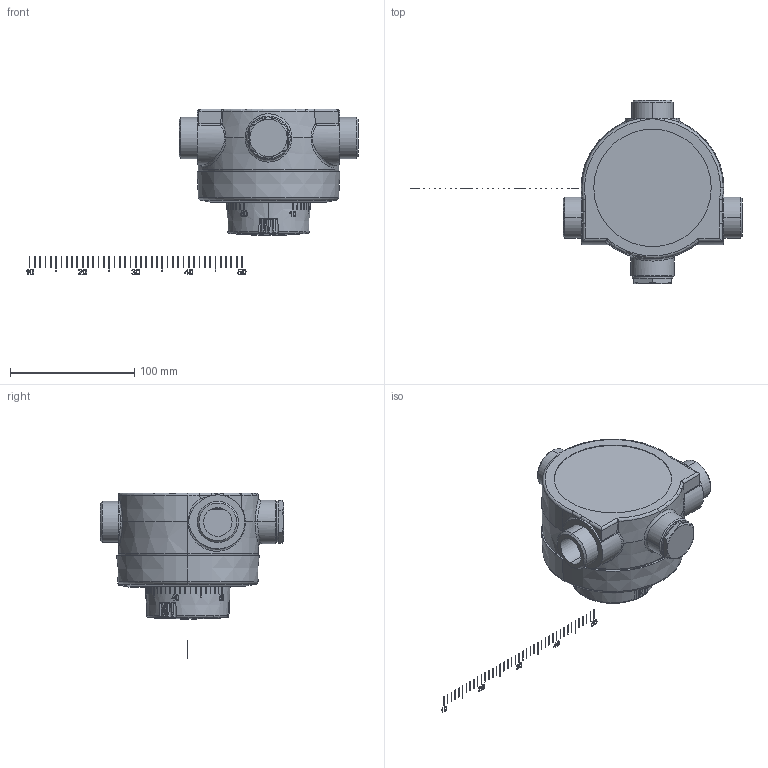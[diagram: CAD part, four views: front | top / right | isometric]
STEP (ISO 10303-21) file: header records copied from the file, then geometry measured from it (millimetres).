
FILE_DESCRIPTION (( 'STEP AP214' ), '1' );
FILE_NAME ('22TX93E.STEP', '2017-12-19T08:50:17', ( '' ), ( '' ), 'SwSTEP 2.0', 'SolidWorks 2017', '' );
FILE_SCHEMA (( 'AUTOMOTIVE_DESIGN' ));
Length unit declared in the file: millimetre
Products named in the file (16): 22TX93E; 22100282; 22100284; 22108024GR; 22108019; 22108014GR; 22108350; 22100037; 22080300_Enveloppe; 22018970; 22108612; 22014885; 22012565; 22108337; 22010427_22010427; 22108311_22108311PE
Assembly tree (20 placements, depth 3):
  22TX93E
    22108311_22108311PE
    22080300_Enveloppe
      22010427_22010427
      22108337
      22012565  x2
      22014885  x2
      22108612
      22018970  x2
    22100037  x2
    22108350
    22108014GR
    22108019  x2
    22108024GR
    22100284
    22100282
Bounding box: 267.11 x 147.5 x 133.4 mm (x, y, z)
Volume: 385774.6 mm3; surface area: 219727 mm2
Topology: 74 solids, 74 shells, 2644 faces, 6630 edges, 4105 vertices
Faces by surface type: plane 1080, bspline 443, cone 438, cylinder 415, torus 179, sphere 89
Entity records: 114860 total; most frequent: CARTESIAN_POINT 51697, ORIENTED_EDGE 12788, DIRECTION 10080, EDGE_CURVE 6394, VERTEX_POINT 4001, AXIS2_PLACEMENT_3D 3847, EDGE_LOOP 2707, ADVANCED_FACE 2557
